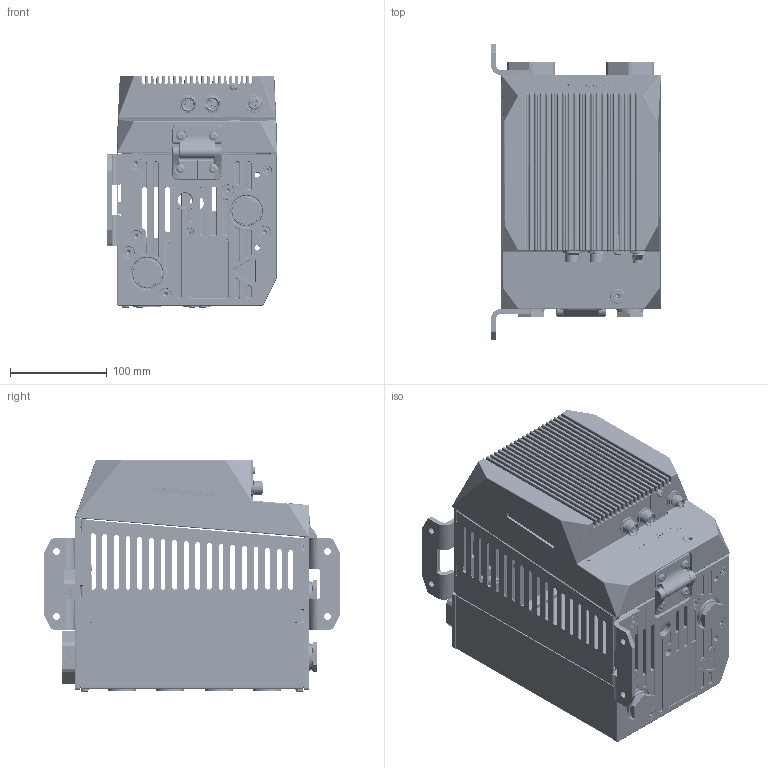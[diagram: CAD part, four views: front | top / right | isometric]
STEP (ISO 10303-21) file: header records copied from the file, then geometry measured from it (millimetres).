
FILE_DESCRIPTION (( 'STEP AP214' ), '1' );
FILE_NAME ('HB-FX1XXL61-4.STEP', '2026-03-02T09:26:38', ( '' ), ( '' ), 'SwSTEP 2.0', 'SolidWorks 2023', '' );
FILE_SCHEMA (( 'AUTOMOTIVE_DESIGN' ));
Length unit declared in the file: millimetre
Products named in the file (22): Kopie (2) von B3061620^Kopie von K8534-Hülle Teil2_K8534-Hülle kompl_M4x12; Kopie von K8534-Hülle Teil3^K8534-Hülle kompl_4-FACH-LINKS HB-Therm; Kopie von Kopie von 29730^Kopie von K8534-Hülle Teil2_K8534-Hülle kompl_00; Kopie von K8534-Hülle Teil2^K8534-Hülle kompl_4-Fach HB-Therm; Kopie von 29714^Kopie von K8534-Hülle Teil2_K8534-Hülle kompl; Kopie von 29820-X^Kopie von K8534-Hülle Teil3_K8534-Hülle kompl_01-mit Beschriftung; Kopie von 29733-X^Kopie von K8534-Hülle Teil2_K8534-Hülle kompl; HB-FX1XXL61-4; KX508-2_2^Kopie von 28706_Kopie von K8534-Hülle Teil2_K8534-Hülle kompl; Kopie von K8534-Hülle LINKS^Kopie von K8534-Hülle Teil3_K8534-Hülle kompl_4-FACH; Kopie von 29825-X^Kopie von K8534-Hülle Teil3_K8534-Hülle kompl_00; KX508-2_3^Kopie von 28706_Kopie von K8534-Hülle Teil2_K8534-Hülle kompl; Kopie von 29796-X^Kopie von K8534-Hülle Teil2_K8534-Hülle kompl_29796-1; Kopie von 29814-X^Kopie von K8534-Hülle Teil3_K8534-Hülle kompl_01-mit Beschriftung; KX508-2_1^Kopie von 28706_Kopie von K8534-Hülle Teil2_K8534-Hülle kompl; Kopie von 28862^Kopie von K8534-Hülle Teil2_K8534-Hülle kompl_M5x12; Kopie von 29730^Kopie von K8534-Hülle Teil3_K8534-Hülle kompl_00; Kopie von 29734-X^Kopie von K8534-Hülle Teil3_K8534-Hülle kompl_00; Kopie von 29827^Kopie von K8534-Hülle Teil2_K8534-Hülle kompl; Kopie von B3061620^Kopie von K8534-Hülle Teil2_K8534-Hülle kompl_M4x12; Kopie von 28706^Kopie von K8534-Hülle Teil2_K8534-Hülle kompl_180°; Kopie von Kopie von 24568^Kopie von K8534-Hülle Teil3_K8534-Hülle kompl_00
Assembly tree (32 placements, depth 4):
  HB-FX1XXL61-4
    Kopie von K8534-Hülle Teil3^K8534-Hülle kompl_4-FACH-LINKS HB-Therm
      Kopie von 29734-X^Kopie von K8534-Hülle Teil3_K8534-Hülle kompl_00  x2
      Kopie von 29730^Kopie von K8534-Hülle Teil3_K8534-Hülle kompl_00  x4
      Kopie von K8534-Hülle LINKS^Kopie von K8534-Hülle Teil3_K8534-Hülle kompl_4-FACH
      Kopie von 29814-X^Kopie von K8534-Hülle Teil3_K8534-Hülle kompl_01-mit Beschriftung
      Kopie von 29820-X^Kopie von K8534-Hülle Teil3_K8534-Hülle kompl_01-mit Beschriftung
      Kopie von 29825-X^Kopie von K8534-Hülle Teil3_K8534-Hülle kompl_00
      Kopie von Kopie von 24568^Kopie von K8534-Hülle Teil3_K8534-Hülle kompl_00  x2
    Kopie von K8534-Hülle Teil2^K8534-Hülle kompl_4-Fach HB-Therm
      Kopie von 29827^Kopie von K8534-Hülle Teil2_K8534-Hülle kompl  x2
      Kopie von 29714^Kopie von K8534-Hülle Teil2_K8534-Hülle kompl
      Kopie von 28862^Kopie von K8534-Hülle Teil2_K8534-Hülle kompl_M5x12  x4
      Kopie von 28706^Kopie von K8534-Hülle Teil2_K8534-Hülle kompl_180°
        KX508-2_1^Kopie von 28706_Kopie von K8534-Hülle Teil2_K8534-Hülle kompl
        KX508-2_2^Kopie von 28706_Kopie von K8534-Hülle Teil2_K8534-Hülle kompl
        KX508-2_3^Kopie von 28706_Kopie von K8534-Hülle Teil2_K8534-Hülle kompl
      Kopie von B3061620^Kopie von K8534-Hülle Teil2_K8534-Hülle kompl_M4x12  x2
      Kopie von 29796-X^Kopie von K8534-Hülle Teil2_K8534-Hülle kompl_29796-1
      Kopie von Kopie von 29730^Kopie von K8534-Hülle Teil2_K8534-Hülle kompl_00  x2
      Kopie von 29733-X^Kopie von K8534-Hülle Teil2_K8534-Hülle kompl
      Kopie (2) von B3061620^Kopie von K8534-Hülle Teil2_K8534-Hülle kompl_M4x12
Bounding box: 175.36 x 306 x 239.82 mm (x, y, z)
Volume: 1082033.5 mm3; surface area: 679662.6 mm2
Topology: 96 solids, 97 shells, 7249 faces, 17729 edges, 10777 vertices
Faces by surface type: plane 2422, cylinder 2154, bspline 996, torus 730, cone 690, sphere 257
Full cylindrical faces by diameter (mm): 2.5 x9, 3.3 x22, 3.6 x1, 4 x14, 4.2 x5, 4.5 x6, 4.6 x1, 4.9 x6, 5 x36, 5.2 x4, 6 x14, 6.6 x12, 6.8 x2, 7 x18, 7.8 x2, 8.3 x1, 8.4 x4, 9.4 x1, 10 x1, 10.2 x1, 10.3 x1, 10.55 x1, 10.8 x2, 12 x26, 12.1 x10, 14.5 x3, 18.4 x2, 19 x11, 20.96 x2, 26.6 x2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
Entity records: 316045 total; most frequent: CARTESIAN_POINT 90046, ORIENTED_EDGE 32422, DIRECTION 30838, EDGE_CURVE 16211, AXIS2_PLACEMENT_3D 11754, VERTEX_POINT 10174, EDGE_LOOP 8057, VECTOR 7330
